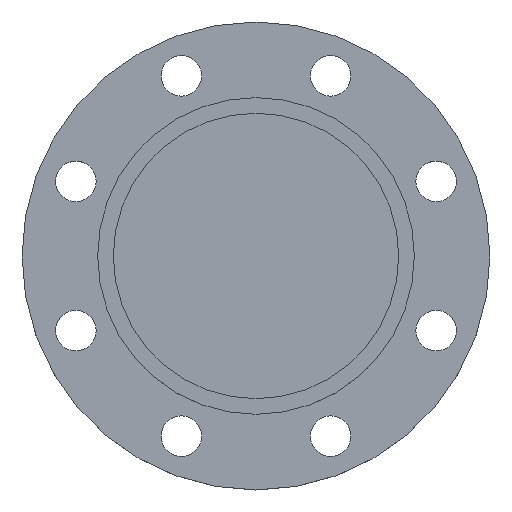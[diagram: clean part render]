
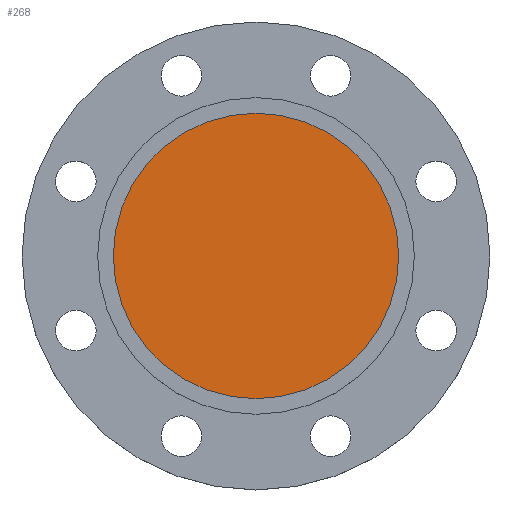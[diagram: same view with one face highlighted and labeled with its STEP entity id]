
A CAD part, top view. The second image highlights one B-rep face of the part: STEP entity #268.
In plain terms, the highlighted planar face has unit normal (0, 0, 1).
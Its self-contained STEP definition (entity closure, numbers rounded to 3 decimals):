
#6 = DIRECTION ( 'NONE',  ( -1., 0., 0. ) ) ;
#25 = ORIENTED_EDGE ( 'NONE', *, *, #211, .F. ) ;
#56 = CARTESIAN_POINT ( 'NONE',  ( 91.5, 0., -5. ) ) ;
#128 = CIRCLE ( 'NONE', #235, 91.5 ) ;
#167 = EDGE_CURVE ( 'NONE', #435, #794, #128, .T. ) ;
#211 = EDGE_CURVE ( 'NONE', #794, #435, #309, .T. ) ;
#235 = AXIS2_PLACEMENT_3D ( 'NONE', #397, #671, #6 ) ;
#237 = AXIS2_PLACEMENT_3D ( 'NONE', #846, #249, #550 ) ;
#249 = DIRECTION ( 'NONE',  ( 0., 0., -1. ) ) ;
#260 = CARTESIAN_POINT ( 'NONE',  ( 91.5, 0., -5. ) ) ;
#268 = ADVANCED_FACE ( 'NONE', ( #623 ), #854, .T. ) ;
#282 = AXIS2_PLACEMENT_3D ( 'NONE', #260, #563, #803 ) ;
#309 = CIRCLE ( 'NONE', #237, 91.5 ) ;
#342 = ORIENTED_EDGE ( 'NONE', *, *, #167, .F. ) ;
#389 = EDGE_LOOP ( 'NONE', ( #25, #342 ) ) ;
#397 = CARTESIAN_POINT ( 'NONE',  ( 0., 0., -5. ) ) ;
#435 = VERTEX_POINT ( 'NONE', #56 ) ;
#550 = DIRECTION ( 'NONE',  ( -1., 0., 0. ) ) ;
#563 = DIRECTION ( 'NONE',  ( 0., 0., 1. ) ) ;
#623 = FACE_OUTER_BOUND ( 'NONE', #389, .T. ) ;
#671 = DIRECTION ( 'NONE',  ( 0., 0., -1. ) ) ;
#794 = VERTEX_POINT ( 'NONE', #826 ) ;
#803 = DIRECTION ( 'NONE',  ( 1., 0., 0. ) ) ;
#826 = CARTESIAN_POINT ( 'NONE',  ( -91.5, 0., -5. ) ) ;
#846 = CARTESIAN_POINT ( 'NONE',  ( 0., 0., -5. ) ) ;
#854 = PLANE ( 'NONE',  #282 ) ;
